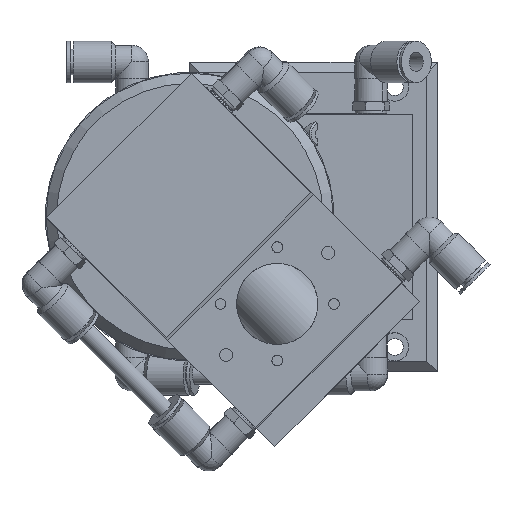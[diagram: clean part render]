
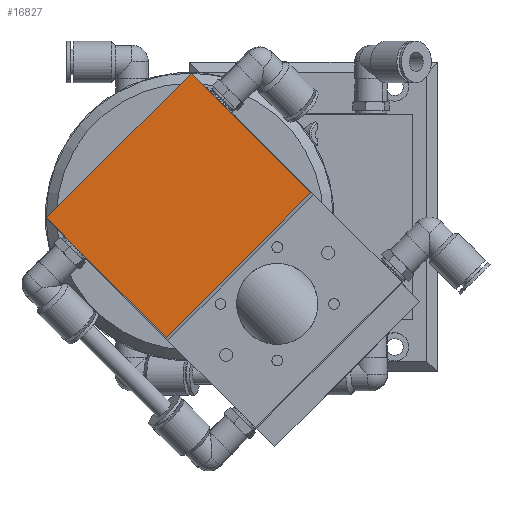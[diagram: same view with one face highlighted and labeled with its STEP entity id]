
A CAD part, top view. The second image highlights one B-rep face of the part: STEP entity #16827.
In plain terms, the highlighted planar face has unit normal (0, 0, 1).
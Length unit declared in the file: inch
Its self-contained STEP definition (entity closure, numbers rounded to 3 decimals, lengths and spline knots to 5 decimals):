
#132 = ORIENTED_EDGE ( 'NONE', *, *, #11258, .F. ) ;
#223 = ORIENTED_EDGE ( 'NONE', *, *, #10801, .T. ) ;
#371 = EDGE_CURVE ( 'NONE', #9553, #9846, #13759, .T. ) ;
#1737 = CARTESIAN_POINT ( 'NONE',  ( -2.74719, 0.17609, 5.38857 ) ) ;
#1846 = DIRECTION ( 'NONE',  ( 0.707, 0.707, 0. ) ) ;
#2266 = CARTESIAN_POINT ( 'NONE',  ( -1.29678, -1.27432, 5.38857 ) ) ;
#2528 = VECTOR ( 'NONE', #11813, 39.37008 ) ;
#2565 = FACE_OUTER_BOUND ( 'NONE', #17629, .T. ) ;
#2797 = CARTESIAN_POINT ( 'NONE',  ( 0.45684, 0.47931, 5.38857 ) ) ;
#2923 = ORIENTED_EDGE ( 'NONE', *, *, #15384, .F. ) ;
#4247 = ORIENTED_EDGE ( 'NONE', *, *, #371, .F. ) ;
#4623 = CARTESIAN_POINT ( 'NONE',  ( -2.74719, 0.17609, 5.38857 ) ) ;
#6977 = CARTESIAN_POINT ( 'NONE',  ( -0.99357, 1.92971, 5.38857 ) ) ;
#7360 = DIRECTION ( 'NONE',  ( -0.707, -0.707, 0. ) ) ;
#8539 = CARTESIAN_POINT ( 'NONE',  ( -2.74719, 0.17609, 5.38857 ) ) ;
#9553 = VERTEX_POINT ( 'NONE', #14564 ) ;
#9802 = LINE ( 'NONE', #2266, #2528 ) ;
#9846 = VERTEX_POINT ( 'NONE', #6977 ) ;
#10136 = VECTOR ( 'NONE', #1846, 39.37008 ) ;
#10801 = EDGE_CURVE ( 'NONE', #9553, #15865, #15406, .T. ) ;
#11258 = EDGE_CURVE ( 'NONE', #9846, #17037, #11969, .T. ) ;
#11316 = VECTOR ( 'NONE', #16672, 39.37008 ) ;
#11423 = CARTESIAN_POINT ( 'NONE',  ( -1.29678, -1.27432, 5.38857 ) ) ;
#11813 = DIRECTION ( 'NONE',  ( -0.707, -0.707, 0. ) ) ;
#11969 = LINE ( 'NONE', #14664, #13264 ) ;
#11989 = DIRECTION ( 'NONE',  ( 0.707, -0.707, 0. ) ) ;
#12790 = PLANE ( 'NONE',  #15254 ) ;
#13264 = VECTOR ( 'NONE', #11989, 39.37008 ) ;
#13759 = LINE ( 'NONE', #8539, #10136 ) ;
#14166 = DIRECTION ( 'NONE',  ( 0., 0., 1. ) ) ;
#14564 = CARTESIAN_POINT ( 'NONE',  ( -2.74719, 0.17609, 5.38857 ) ) ;
#14664 = CARTESIAN_POINT ( 'NONE',  ( -0.99357, 1.92971, 5.38857 ) ) ;
#15254 = AXIS2_PLACEMENT_3D ( 'NONE', #4623, #14166, #7360 ) ;
#15384 = EDGE_CURVE ( 'NONE', #17037, #15865, #9802, .T. ) ;
#15406 = LINE ( 'NONE', #1737, #11316 ) ;
#15865 = VERTEX_POINT ( 'NONE', #11423 ) ;
#16672 = DIRECTION ( 'NONE',  ( 0.707, -0.707, 0. ) ) ;
#16827 = ADVANCED_FACE ( 'NONE', ( #2565 ), #12790, .T. ) ;
#17037 = VERTEX_POINT ( 'NONE', #2797 ) ;
#17629 = EDGE_LOOP ( 'NONE', ( #2923, #132, #4247, #223 ) ) ;
